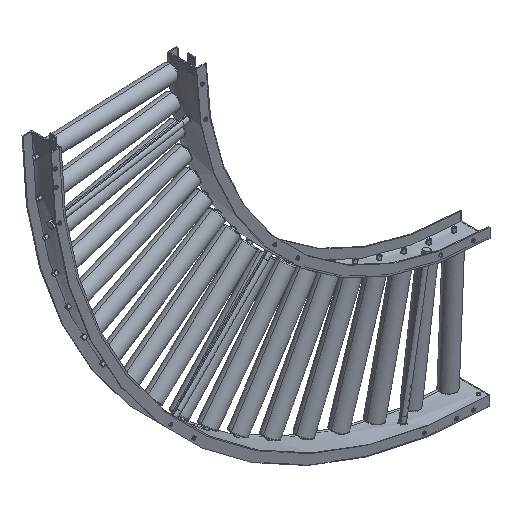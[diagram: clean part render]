
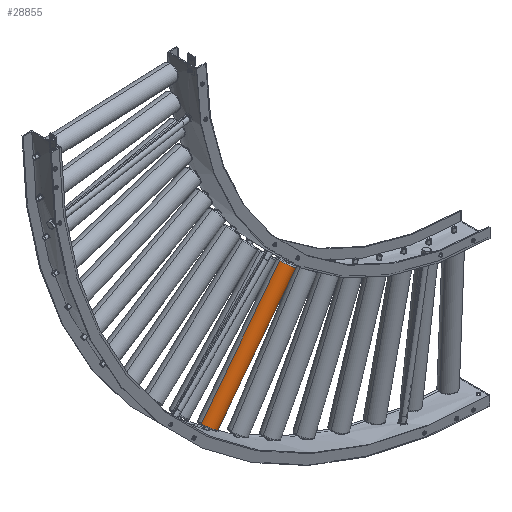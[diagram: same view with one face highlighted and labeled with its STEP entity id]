
A CAD part, isometric view. The second image highlights one B-rep face of the part: STEP entity #28855.
In plain terms, the highlighted cylindrical face has radius 24.3 mm (diameter 48.6 mm), a partial arc.
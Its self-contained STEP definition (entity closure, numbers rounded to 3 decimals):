
#611 = ORIENTED_EDGE ( 'NONE', *, *, #23770, .T. ) ;
#877 = DIRECTION ( 'NONE',  ( -0.793, 0., 0.609 ) ) ;
#1699 = VERTEX_POINT ( 'NONE', #16431 ) ;
#3286 = DIRECTION ( 'NONE',  ( 0.793, 0., -0.609 ) ) ;
#3889 = LINE ( 'NONE', #6679, #24044 ) ;
#4207 = ORIENTED_EDGE ( 'NONE', *, *, #15388, .T. ) ;
#4241 = CARTESIAN_POINT ( 'NONE',  ( -149.961, 46.699, -599.722 ) ) ;
#5168 = CIRCLE ( 'NONE', #10608, 24.3 ) ;
#5608 = FACE_OUTER_BOUND ( 'NONE', #11273, .T. ) ;
#6679 = CARTESIAN_POINT ( 'NONE',  ( 303.287, 46.699, -9.038 ) ) ;
#7702 = CIRCLE ( 'NONE', #17091, 24.3 ) ;
#7849 = DIRECTION ( 'NONE',  ( -0.609, 0., -0.793 ) ) ;
#8002 = AXIS2_PLACEMENT_3D ( 'NONE', #29282, #8381, #3286 ) ;
#8381 = DIRECTION ( 'NONE',  ( 0.609, 0., 0.793 ) ) ;
#10340 = EDGE_CURVE ( 'NONE', #1699, #14316, #14765, .T. ) ;
#10608 = AXIS2_PLACEMENT_3D ( 'NONE', #29037, #19595, #27006 ) ;
#10827 = DIRECTION ( 'NONE',  ( 0.609, 0., 0.793 ) ) ;
#11273 = EDGE_LOOP ( 'NONE', ( #21795, #611, #19114, #4207 ) ) ;
#14316 = VERTEX_POINT ( 'NONE', #28744 ) ;
#14765 = LINE ( 'NONE', #24025, #25143 ) ;
#15388 = EDGE_CURVE ( 'NONE', #30505, #14316, #7702, .T. ) ;
#16431 = CARTESIAN_POINT ( 'NONE',  ( -188.518, 46.699, -570.137 ) ) ;
#17091 = AXIS2_PLACEMENT_3D ( 'NONE', #19310, #7849, #877 ) ;
#17761 = CARTESIAN_POINT ( 'NONE',  ( 89.891, 46.699, -287.141 ) ) ;
#18887 = VERTEX_POINT ( 'NONE', #4241 ) ;
#19114 = ORIENTED_EDGE ( 'NONE', *, *, #25084, .T. ) ;
#19310 = CARTESIAN_POINT ( 'NONE',  ( 70.613, 46.699, -272.348 ) ) ;
#19595 = DIRECTION ( 'NONE',  ( 0.609, 0., 0.793 ) ) ;
#21795 = ORIENTED_EDGE ( 'NONE', *, *, #10340, .F. ) ;
#23770 = EDGE_CURVE ( 'NONE', #1699, #18887, #5168, .T. ) ;
#24025 = CARTESIAN_POINT ( 'NONE',  ( 264.73, 46.699, 20.548 ) ) ;
#24044 = VECTOR ( 'NONE', #27874, 1000. ) ;
#25084 = EDGE_CURVE ( 'NONE', #18887, #30505, #3889, .T. ) ;
#25143 = VECTOR ( 'NONE', #10827, 1000. ) ;
#27006 = DIRECTION ( 'NONE',  ( 0.793, 0., -0.609 ) ) ;
#27874 = DIRECTION ( 'NONE',  ( 0.609, 0., 0.793 ) ) ;
#28744 = CARTESIAN_POINT ( 'NONE',  ( 51.334, 46.699, -257.555 ) ) ;
#28855 = ADVANCED_FACE ( 'NONE', ( #5608 ), #29585, .T. ) ;
#29037 = CARTESIAN_POINT ( 'NONE',  ( -169.239, 46.699, -584.929 ) ) ;
#29282 = CARTESIAN_POINT ( 'NONE',  ( 284.009, 46.699, 5.755 ) ) ;
#29585 = CYLINDRICAL_SURFACE ( 'NONE', #8002, 24.3 ) ;
#30505 = VERTEX_POINT ( 'NONE', #17761 ) ;
